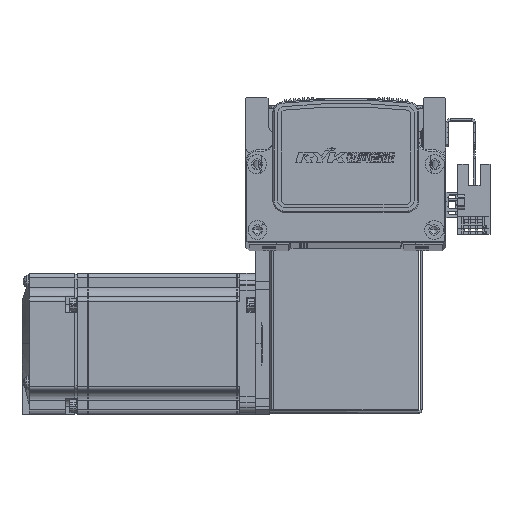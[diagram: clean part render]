
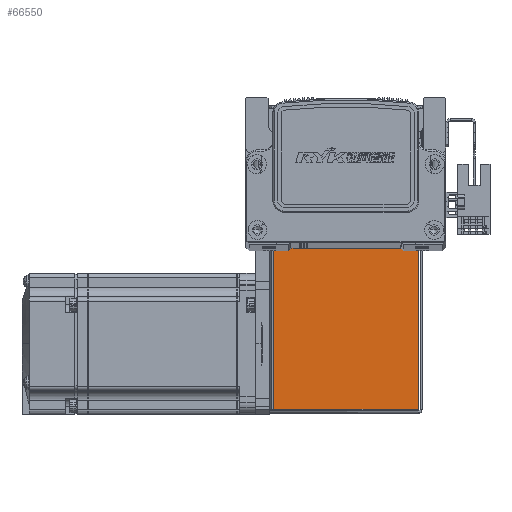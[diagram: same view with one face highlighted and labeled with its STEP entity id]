
A CAD part, top view. The second image highlights one B-rep face of the part: STEP entity #66550.
In plain terms, the highlighted planar face has unit normal (0, 0, 1) as drawn and (0, 0, -1) by its records, which use the part's own axes.
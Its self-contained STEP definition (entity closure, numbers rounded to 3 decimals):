
#56 = EDGE_LOOP ( 'NONE', ( #41270, #41331, #41299, #41285 ) ) ;
#2135 = FACE_OUTER_BOUND ( 'NONE', #56, .T. ) ;
#10801 = VERTEX_POINT ( 'NONE', #78332 ) ;
#10806 = VERTEX_POINT ( 'NONE', #78324 ) ;
#10822 = VERTEX_POINT ( 'NONE', #78366 ) ;
#10827 = VERTEX_POINT ( 'NONE', #78314 ) ;
#24693 = DIRECTION ( 'NONE',  ( 0., 0., 1. ) ) ;
#24714 = CARTESIAN_POINT ( 'NONE',  ( 0., 0., -35. ) ) ;
#24731 = PLANE ( 'NONE',  #70207 ) ;
#24733 = DIRECTION ( 'NONE',  ( 0., -1., 0. ) ) ;
#41270 = ORIENTED_EDGE ( 'NONE', *, *, #51244, .T. ) ;
#41285 = ORIENTED_EDGE ( 'NONE', *, *, #51339, .T. ) ;
#41299 = ORIENTED_EDGE ( 'NONE', *, *, #51458, .T. ) ;
#41331 = ORIENTED_EDGE ( 'NONE', *, *, #51419, .F. ) ;
#46855 = DIRECTION ( 'NONE',  ( 1., 0., 0. ) ) ;
#47067 = CARTESIAN_POINT ( 'NONE',  ( 30.763, 72.5, -35. ) ) ;
#47070 = DIRECTION ( 'NONE',  ( 0., -1., 0. ) ) ;
#47248 = DIRECTION ( 'NONE',  ( 1., 0., 0. ) ) ;
#47264 = CARTESIAN_POINT ( 'NONE',  ( 0., 72.5, -35. ) ) ;
#47350 = CARTESIAN_POINT ( 'NONE',  ( 32.5, 0.737, -35. ) ) ;
#47377 = LINE ( 'NONE', #51489, #47400 ) ;
#47400 = VECTOR ( 'NONE', #51460, 1000. ) ;
#47409 = LINE ( 'NONE', #47350, #47411 ) ;
#47411 = VECTOR ( 'NONE', #46855, 1000. ) ;
#48057 = LINE ( 'NONE', #47067, #48078 ) ;
#48078 = VECTOR ( 'NONE', #47070, 1000. ) ;
#48187 = LINE ( 'NONE', #47264, #48214 ) ;
#48214 = VECTOR ( 'NONE', #47248, 1000. ) ;
#51244 = EDGE_CURVE ( 'NONE', #10806, #10822, #48057, .T. ) ;
#51339 = EDGE_CURVE ( 'NONE', #10827, #10806, #48187, .T. ) ;
#51419 = EDGE_CURVE ( 'NONE', #10801, #10822, #47409, .T. ) ;
#51458 = EDGE_CURVE ( 'NONE', #10801, #10827, #47377, .T. ) ;
#51460 = DIRECTION ( 'NONE',  ( 0., 1., 0. ) ) ;
#51489 = CARTESIAN_POINT ( 'NONE',  ( -30.793, 0., -35. ) ) ;
#66550 = ADVANCED_FACE ( 'NONE', ( #2135 ), #24731, .F. ) ;
#70207 = AXIS2_PLACEMENT_3D ( 'NONE', #24714, #24693, #24733 ) ;
#78314 = CARTESIAN_POINT ( 'NONE',  ( -30.793, 72.5, -35. ) ) ;
#78324 = CARTESIAN_POINT ( 'NONE',  ( 30.763, 72.5, -35. ) ) ;
#78332 = CARTESIAN_POINT ( 'NONE',  ( -30.793, 0.737, -35. ) ) ;
#78366 = CARTESIAN_POINT ( 'NONE',  ( 30.763, 0.737, -35. ) ) ;
